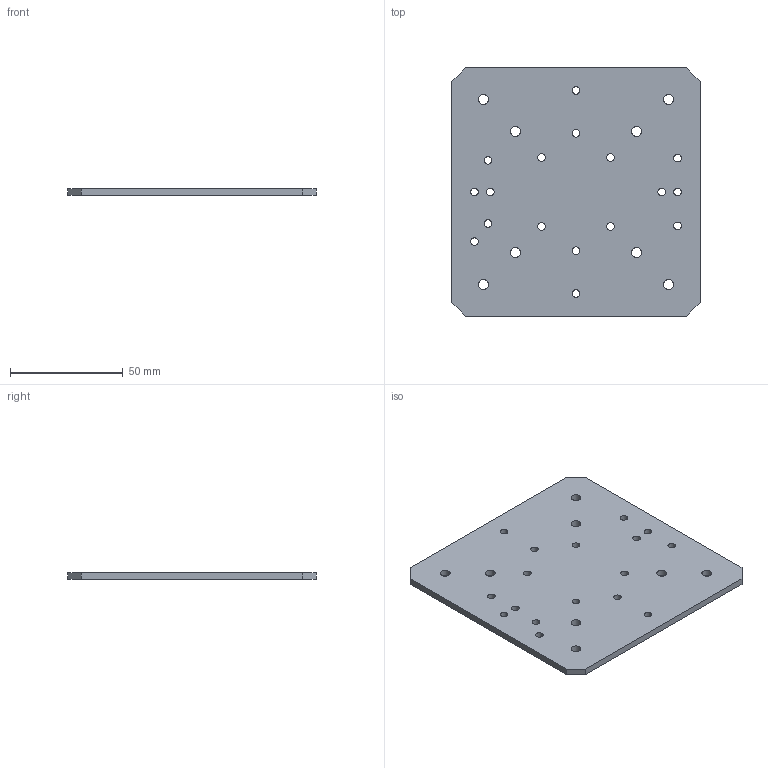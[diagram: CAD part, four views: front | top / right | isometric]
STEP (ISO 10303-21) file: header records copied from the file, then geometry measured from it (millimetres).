
FILE_DESCRIPTION(('FreeCAD Model'),'2;1');
FILE_NAME('Open CASCADE Shape Model','2026-10-26T11:51:15',('FreeCAD'),( 'FreeCAD'),'Open CASCADE STEP processor 7.8','FreeCAD','Unknown');
FILE_SCHEMA(('AUTOMOTIVE_DESIGN { 1 0 10303 214 1 1 1 1 }'));
Length unit declared in the file: millimetre
Products named in the file (1): Open CASCADE STEP translator 7.8 2
Bounding box: 110 x 110 x 3 mm (x, y, z)
Volume: 35256 mm3; surface area: 25658.3 mm2
Topology: 1 solids, 1 shells, 35 faces, 99 edges, 66 vertices
Faces by surface type: cylinder 25, plane 10
Full cylindrical faces by diameter (mm): 3.4 x17, 4.4 x8
Entity records: 1273 total; most frequent: DIRECTION 221, CARTESIAN_POINT 201, ORIENTED_EDGE 198, EDGE_CURVE 99, AXIS2_PLACEMENT_3D 86, FACE_BOUND 85, EDGE_LOOP 85, VERTEX_POINT 66
